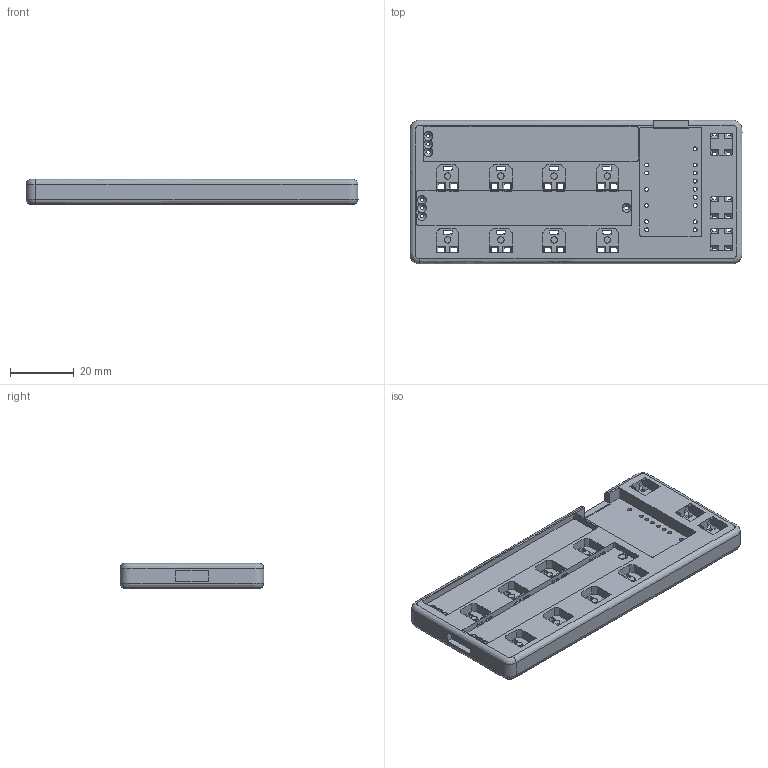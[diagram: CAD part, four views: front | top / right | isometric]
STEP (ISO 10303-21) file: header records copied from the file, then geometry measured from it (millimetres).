
FILE_DESCRIPTION(/* description */ (''),/* implementation_level */ '2;1');
FILE_NAME(/* name */ 'leet_control8',/* time_stamp */ '2020-11-24T17:11:56+01:00',/* author */ (''),/* organization */ (''),/* preprocessor_version */ 'ST-DEVELOPER v10',/* originating_system */ '',/* authorisation */ '');
FILE_SCHEMA (('CONFIG_CONTROL_DESIGN'));
Length unit declared in the file: millimetre
Products named in the file (1): 1
Bounding box: 104 x 45 x 8 mm (x, y, z)
Volume: 24590.1 mm3; surface area: 17717.4 mm2
Topology: 1 solids, 1 shells, 988 faces, 2828 edges, 1788 vertices
Faces by surface type: plane 557, bspline 431
Entity records: 52577 total; most frequent: CARTESIAN_POINT 34925, ORIENTED_EDGE 5656, EDGE_CURVE 2828, B_SPLINE_CURVE_WITH_KNOTS 2324, VERTEX_POINT 1788, EDGE_LOOP 1066, ADVANCED_FACE 988, FACE_OUTER_BOUND 988
